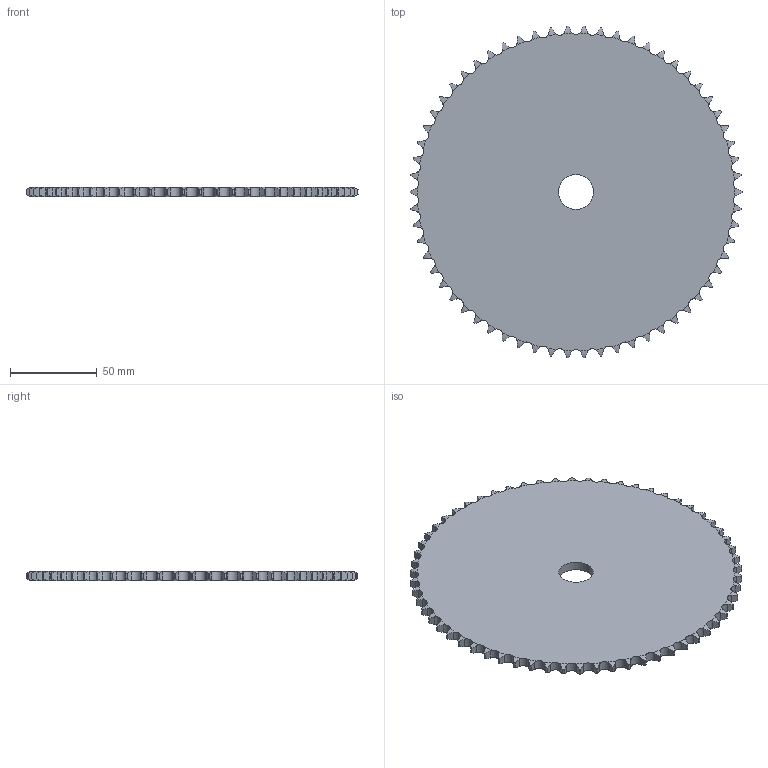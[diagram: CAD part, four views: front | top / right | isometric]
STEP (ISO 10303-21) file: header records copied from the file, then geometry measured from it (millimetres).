
FILE_DESCRIPTION((''),'2;1');
FILE_NAME('500-101-0062_PRT','2021-02-12T',('Brieden'),('Brieden'),'PRO/ENGINEER BY PARAMETRIC TECHNOLOGY CORPORATION, 2010160','PRO/ENGINEER BY PARAMETRIC TECHNOLOGY CORPORATION, 2010160','');
FILE_SCHEMA(('AUTOMOTIVE_DESIGN { 1 0 10303 214 1 1 1 1 }'));
Length unit declared in the file: millimetre
Products named in the file (1): 500-101-0062_PRT
Bounding box: 191.48 x 191.28 x 5.3 mm (x, y, z)
Volume: 140830.4 mm3; surface area: 58027.1 mm2
Topology: 1 solids, 1 shells, 376 faces, 1122 edges, 748 vertices
Faces by surface type: cylinder 250, torus 124, plane 2
Entity records: 18418 total; most frequent: CARTESIAN_POINT 5477, ORIENTED_EDGE 2244, DIRECTION 1754, PRESENTATION_STYLE_ASSIGNMENT 1123, STYLED_ITEM 1123, CURVE_STYLE 1122, EDGE_CURVE 1122, AXIS2_PLACEMENT_3D 752
